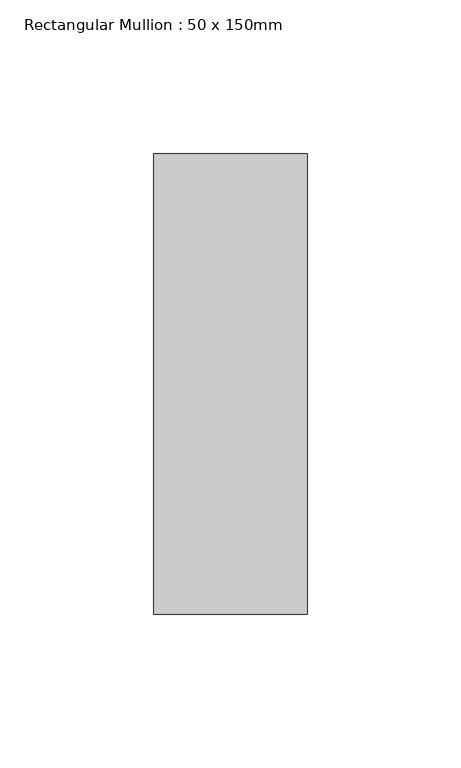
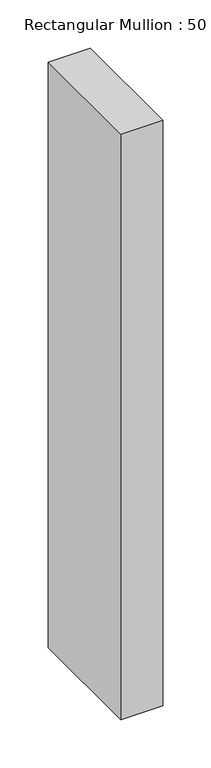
"""IFC4 building model written with IfcOpenShell, lengths in millimetres: member geometry, Rectangular Mullion : 50 x 150mm."""

from ifc_helpers import new_model, si_unit, frame, origin, place, context, project, spatial, polyline, outline, extrude, source, transform, mapped, element, save


def rectangular_mullion_50_x_150mm_0f23942f(model_context):
    return source(origin(), model_context, "Body", "SweptSolid", [
        extrude(outline(polyline([(0.0, 75.0), (0.0, -75.0), (-50.0, -75.0), (-50.0, 75.0), (0.0, 75.0)])), frame((0.0, 0.0, -740.0), z_axis=(0.0, 0.0, 1.0), x_axis=(1.0, 0.0, 0.0)), (0.0, 0.0, 1.0), 740.0),
    ])


if __name__ == "__main__":
    model = new_model("IFC4")
    model_context = context("Model", 3, world=origin())
    ifc_project = project(units=[si_unit("LENGTHUNIT", "METRE", prefix="MILLI")], contexts=[model_context])
    site = spatial("IfcSite", under=ifc_project)
    building = spatial("IfcBuilding", under=site)
    placement = place(None, origin())
    rectangular_mullion_50_x_150mm_shape = rectangular_mullion_50_x_150mm_0f23942f(model_context)
    element("IfcMember", 1, ObjectType="Rectangular Mullion : 50 x 150mm", at=placement, inside=building, context=model_context, shape_type="MappedRepresentation", body=[
        mapped(rectangular_mullion_50_x_150mm_shape, transform((0.0, 0.0, 0.0), x_axis=(1.0, 0.0, 0.0), y_axis=(0.0, 1.0, 0.0), z_axis=(0.0, 0.0, 1.0))),
    ])
    save(model, "model.ifc")
